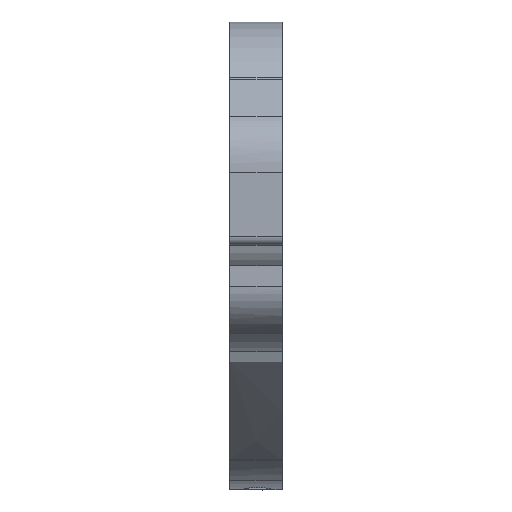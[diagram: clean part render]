
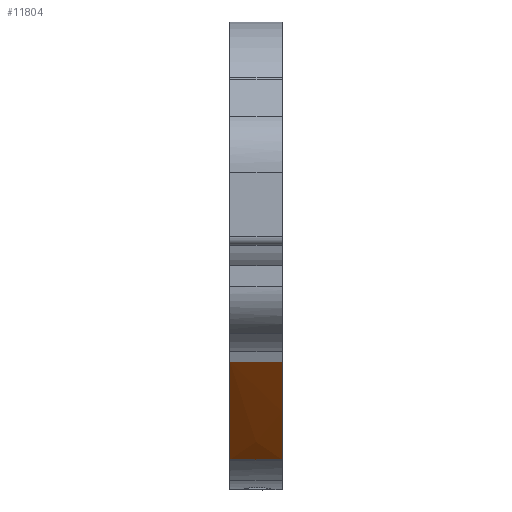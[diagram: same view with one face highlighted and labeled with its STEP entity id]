
A CAD part, left-side view. The second image highlights one B-rep face of the part: STEP entity #11804.
In plain terms, the highlighted free-form (B-spline) face has degree [3, 1] with [12, 2] control points.
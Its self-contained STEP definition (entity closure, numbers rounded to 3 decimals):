
#74 = CARTESIAN_POINT ( 'NONE',  ( 151.822, 7.778, 70.656 ) ) ;
#241 = VECTOR ( 'NONE', #14091, 1000. ) ;
#466 = FACE_OUTER_BOUND ( 'NONE', #12126, .T. ) ;
#546 = CARTESIAN_POINT ( 'NONE',  ( 163.958, 1.898, 59.718 ) ) ;
#1125 = CARTESIAN_POINT ( 'NONE',  ( 159.877, 7.778, 63.173 ) ) ;
#1392 = CARTESIAN_POINT ( 'NONE',  ( 164.083, 1.898, 59.637 ) ) ;
#1658 = CARTESIAN_POINT ( 'NONE',  ( 164.083, 7.778, 59.637 ) ) ;
#1687 = CARTESIAN_POINT ( 'NONE',  ( 163.825, 7.778, 59.814 ) ) ;
#1915 = CARTESIAN_POINT ( 'NONE',  ( 162.833, 7.778, 60.593 ) ) ;
#2061 = CARTESIAN_POINT ( 'NONE',  ( 159.877, 1.898, 63.173 ) ) ;
#2299 = VECTOR ( 'NONE', #5357, 1000. ) ;
#2302 = CARTESIAN_POINT ( 'NONE',  ( 158.861, 1.898, 64.099 ) ) ;
#2694 = B_SPLINE_CURVE_WITH_KNOTS ( 'NONE', 3,
 ( #74, #12274, #3559, #6166, #1125, #12520, #11308, #3812, #6089, #11138, #8859, #4947, #6417, #11055 ),
 .UNSPECIFIED., .F., .F.,
 ( 4, 2, 2, 2, 2, 2, 4 ),
 ( 0., 0.008, 0.012, 0.014, 0.015, 0.016, 0.016 ),
 .UNSPECIFIED. ) ;
#3029 = EDGE_CURVE ( 'NONE', #13476, #3819, #15638, .T. ) ;
#3059 = CARTESIAN_POINT ( 'NONE',  ( 159.946, 7.778, 63.113 ) ) ;
#3559 = CARTESIAN_POINT ( 'NONE',  ( 155.825, 7.778, 66.888 ) ) ;
#3712 = EDGE_CURVE ( 'NONE', #12435, #5621, #5667, .T. ) ;
#3812 = CARTESIAN_POINT ( 'NONE',  ( 162.723, 7.778, 60.688 ) ) ;
#3819 = VERTEX_POINT ( 'NONE', #15325 ) ;
#4213 = CARTESIAN_POINT ( 'NONE',  ( 162.833, 1.898, 60.593 ) ) ;
#4365 = CARTESIAN_POINT ( 'NONE',  ( 151.822, 7.778, 70.656 ) ) ;
#4423 = CARTESIAN_POINT ( 'NONE',  ( 163.938, 1.898, 59.732 ) ) ;
#4441 = CARTESIAN_POINT ( 'NONE',  ( 163.365, 7.778, 60.165 ) ) ;
#4947 = CARTESIAN_POINT ( 'NONE',  ( 163.799, 7.778, 59.833 ) ) ;
#5316 = EDGE_CURVE ( 'NONE', #12435, #13476, #2694, .T. ) ;
#5357 = DIRECTION ( 'NONE',  ( 0., -1., 0. ) ) ;
#5429 = CARTESIAN_POINT ( 'NONE',  ( 163.365, 1.898, 60.165 ) ) ;
#5582 = CARTESIAN_POINT ( 'NONE',  ( 156.428, 1.898, 66.321 ) ) ;
#5592 = CARTESIAN_POINT ( 'NONE',  ( 164.083, 7.778, 59.637 ) ) ;
#5621 = VERTEX_POINT ( 'NONE', #11589 ) ;
#5659 = CARTESIAN_POINT ( 'NONE',  ( 163.825, 1.898, 59.814 ) ) ;
#5667 = LINE ( 'NONE', #8194, #241 ) ;
#5966 = CARTESIAN_POINT ( 'NONE',  ( 161.419, 1.898, 61.806 ) ) ;
#6022 = B_SPLINE_SURFACE_WITH_KNOTS ( 'NONE', 3, 1, ( 
 ( #9251, #1392 ),
 ( #12621, #546 ),
 ( #1687, #5659 ),
 ( #10640, #15628 ),
 ( #4441, #5429 ),
 ( #1915, #4213 ),
 ( #10412, #7959 ),
 ( #10492, #12921 ),
 ( #3059, #6888 ),
 ( #10560, #5582 ),
 ( #8036, #15547 ),
 ( #4365, #9340 ) ),
 .UNSPECIFIED., .F., .F., .F.,
 ( 4, 2, 2, 2, 2, 4 ),
 ( 2, 2 ),
 ( 0., 0.063, 0.125, 0.25, 0.5, 1. ),
 ( 0., 1. ),
 .UNSPECIFIED. ) ;
#6089 = CARTESIAN_POINT ( 'NONE',  ( 162.987, 7.778, 60.468 ) ) ;
#6166 = CARTESIAN_POINT ( 'NONE',  ( 158.861, 7.778, 64.098 ) ) ;
#6417 = CARTESIAN_POINT ( 'NONE',  ( 163.938, 7.778, 59.731 ) ) ;
#6888 = CARTESIAN_POINT ( 'NONE',  ( 159.946, 1.898, 63.113 ) ) ;
#6944 = CARTESIAN_POINT ( 'NONE',  ( 155.825, 1.898, 66.888 ) ) ;
#7093 = B_SPLINE_CURVE_WITH_KNOTS ( 'NONE', 3,
 ( #12153, #4423, #9395, #14364, #13130, #13213, #7277, #10621, #5966, #2061, #2302, #6944, #8491, #10699 ),
 .UNSPECIFIED., .F., .F.,
 ( 4, 2, 2, 2, 2, 2, 4 ),
 ( 0., 0.001, 0.001, 0.002, 0.004, 0.008, 0.016 ),
 .UNSPECIFIED. ) ;
#7277 = CARTESIAN_POINT ( 'NONE',  ( 162.722, 1.898, 60.688 ) ) ;
#7959 = CARTESIAN_POINT ( 'NONE',  ( 162.421, 1.898, 60.94 ) ) ;
#8036 = CARTESIAN_POINT ( 'NONE',  ( 153.798, 7.778, 68.788 ) ) ;
#8194 = CARTESIAN_POINT ( 'NONE',  ( 151.822, 7.778, 70.656 ) ) ;
#8491 = CARTESIAN_POINT ( 'NONE',  ( 153.82, 1.898, 68.768 ) ) ;
#8859 = CARTESIAN_POINT ( 'NONE',  ( 163.524, 7.778, 60.04 ) ) ;
#9132 = ORIENTED_EDGE ( 'NONE', *, *, #3029, .T. ) ;
#9251 = CARTESIAN_POINT ( 'NONE',  ( 164.083, 7.778, 59.637 ) ) ;
#9340 = CARTESIAN_POINT ( 'NONE',  ( 151.822, 1.898, 70.656 ) ) ;
#9395 = CARTESIAN_POINT ( 'NONE',  ( 163.798, 1.898, 59.833 ) ) ;
#10412 = CARTESIAN_POINT ( 'NONE',  ( 162.421, 7.778, 60.94 ) ) ;
#10448 = CARTESIAN_POINT ( 'NONE',  ( 151.822, 7.778, 70.656 ) ) ;
#10492 = CARTESIAN_POINT ( 'NONE',  ( 161.047, 7.778, 62.126 ) ) ;
#10560 = CARTESIAN_POINT ( 'NONE',  ( 156.428, 7.778, 66.321 ) ) ;
#10621 = CARTESIAN_POINT ( 'NONE',  ( 161.936, 1.898, 61.354 ) ) ;
#10640 = CARTESIAN_POINT ( 'NONE',  ( 163.527, 7.778, 60.037 ) ) ;
#10699 = CARTESIAN_POINT ( 'NONE',  ( 151.822, 1.898, 70.656 ) ) ;
#11055 = CARTESIAN_POINT ( 'NONE',  ( 164.083, 7.778, 59.637 ) ) ;
#11138 = CARTESIAN_POINT ( 'NONE',  ( 163.389, 7.778, 60.146 ) ) ;
#11289 = ORIENTED_EDGE ( 'NONE', *, *, #12245, .T. ) ;
#11308 = CARTESIAN_POINT ( 'NONE',  ( 161.937, 7.778, 61.353 ) ) ;
#11589 = CARTESIAN_POINT ( 'NONE',  ( 151.822, 1.898, 70.656 ) ) ;
#11804 = ADVANCED_FACE ( 'NONE', ( #466 ), #6022, .F. ) ;
#12126 = EDGE_LOOP ( 'NONE', ( #11289, #14811, #14416, #9132 ) ) ;
#12153 = CARTESIAN_POINT ( 'NONE',  ( 164.083, 1.898, 59.637 ) ) ;
#12245 = EDGE_CURVE ( 'NONE', #3819, #5621, #7093, .T. ) ;
#12274 = CARTESIAN_POINT ( 'NONE',  ( 153.82, 7.778, 68.768 ) ) ;
#12435 = VERTEX_POINT ( 'NONE', #10448 ) ;
#12520 = CARTESIAN_POINT ( 'NONE',  ( 161.42, 7.778, 61.806 ) ) ;
#12621 = CARTESIAN_POINT ( 'NONE',  ( 163.958, 7.778, 59.718 ) ) ;
#12921 = CARTESIAN_POINT ( 'NONE',  ( 161.047, 1.898, 62.126 ) ) ;
#13130 = CARTESIAN_POINT ( 'NONE',  ( 163.388, 1.898, 60.146 ) ) ;
#13213 = CARTESIAN_POINT ( 'NONE',  ( 162.986, 1.898, 60.468 ) ) ;
#13476 = VERTEX_POINT ( 'NONE', #1658 ) ;
#14091 = DIRECTION ( 'NONE',  ( 0., -1., 0. ) ) ;
#14364 = CARTESIAN_POINT ( 'NONE',  ( 163.524, 1.898, 60.04 ) ) ;
#14416 = ORIENTED_EDGE ( 'NONE', *, *, #5316, .T. ) ;
#14811 = ORIENTED_EDGE ( 'NONE', *, *, #3712, .F. ) ;
#15325 = CARTESIAN_POINT ( 'NONE',  ( 164.083, 1.898, 59.637 ) ) ;
#15547 = CARTESIAN_POINT ( 'NONE',  ( 153.798, 1.898, 68.788 ) ) ;
#15628 = CARTESIAN_POINT ( 'NONE',  ( 163.527, 1.898, 60.037 ) ) ;
#15638 = LINE ( 'NONE', #5592, #2299 ) ;
